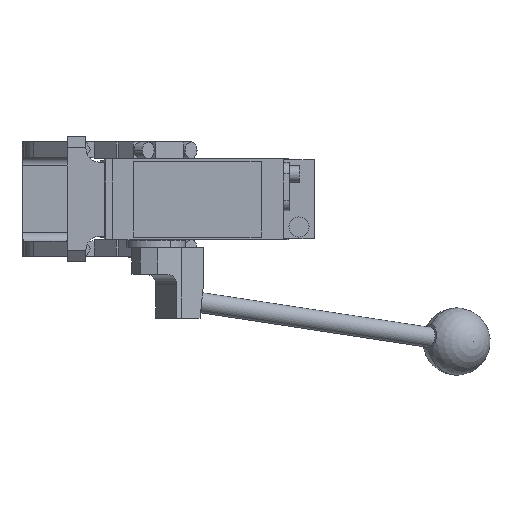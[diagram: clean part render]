
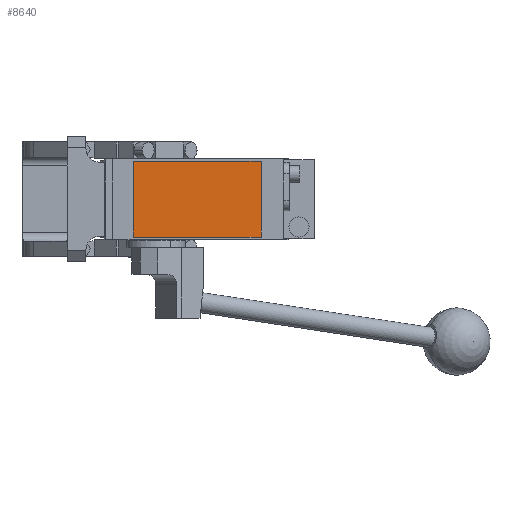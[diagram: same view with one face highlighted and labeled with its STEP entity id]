
A CAD part, front view. The second image highlights one B-rep face of the part: STEP entity #8640.
In plain terms, the highlighted planar face has unit normal (0, -1, 0).
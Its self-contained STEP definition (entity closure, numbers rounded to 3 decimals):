
#223 = ORIENTED_EDGE ( 'NONE', *, *, #15319, .T. ) ;
#1120 = ORIENTED_EDGE ( 'NONE', *, *, #7403, .T. ) ;
#1897 = CARTESIAN_POINT ( 'NONE',  ( -7., -280.5, -22.5 ) ) ;
#1927 = CARTESIAN_POINT ( 'NONE',  ( 69., -280.5, 22.5 ) ) ;
#2420 = CARTESIAN_POINT ( 'NONE',  ( -7., -280.5, -22.5 ) ) ;
#2612 = PLANE ( 'NONE',  #9283 ) ;
#2634 = VERTEX_POINT ( 'NONE', #13497 ) ;
#3841 = ORIENTED_EDGE ( 'NONE', *, *, #6168, .T. ) ;
#4167 = CARTESIAN_POINT ( 'NONE',  ( -7., -280.5, 22.5 ) ) ;
#4342 = DIRECTION ( 'NONE',  ( -1., 0., 0. ) ) ;
#4654 = EDGE_CURVE ( 'NONE', #15694, #2634, #11910, .T. ) ;
#4954 = VERTEX_POINT ( 'NONE', #15678 ) ;
#5554 = VECTOR ( 'NONE', #9242, 1000. ) ;
#5621 = ORIENTED_EDGE ( 'NONE', *, *, #4654, .T. ) ;
#6168 = EDGE_CURVE ( 'NONE', #2634, #4954, #8256, .T. ) ;
#6200 = CARTESIAN_POINT ( 'NONE',  ( 0., -280.5, 0. ) ) ;
#7403 = EDGE_CURVE ( 'NONE', #4954, #9719, #14259, .T. ) ;
#7482 = FACE_OUTER_BOUND ( 'NONE', #13034, .T. ) ;
#7894 = CARTESIAN_POINT ( 'NONE',  ( -7., -280.5, 22.5 ) ) ;
#8256 = LINE ( 'NONE', #1927, #5554 ) ;
#8640 = ADVANCED_FACE ( 'NONE', ( #7482 ), #2612, .T. ) ;
#9242 = DIRECTION ( 'NONE',  ( 0., 0., 1. ) ) ;
#9283 = AXIS2_PLACEMENT_3D ( 'NONE', #6200, #15200, #10167 ) ;
#9719 = VERTEX_POINT ( 'NONE', #4167 ) ;
#9862 = VECTOR ( 'NONE', #10665, 1000. ) ;
#10167 = DIRECTION ( 'NONE',  ( 0., 0., -1. ) ) ;
#10579 = DIRECTION ( 'NONE',  ( 0., 0., -1. ) ) ;
#10665 = DIRECTION ( 'NONE',  ( 1., 0., 0. ) ) ;
#10958 = VECTOR ( 'NONE', #10579, 1000. ) ;
#11910 = LINE ( 'NONE', #1897, #9862 ) ;
#13034 = EDGE_LOOP ( 'NONE', ( #223, #5621, #3841, #1120 ) ) ;
#13104 = LINE ( 'NONE', #14490, #10958 ) ;
#13497 = CARTESIAN_POINT ( 'NONE',  ( 69., -280.5, -22.5 ) ) ;
#13798 = VECTOR ( 'NONE', #4342, 1000. ) ;
#14259 = LINE ( 'NONE', #7894, #13798 ) ;
#14490 = CARTESIAN_POINT ( 'NONE',  ( -7., -280.5, 22.5 ) ) ;
#15200 = DIRECTION ( 'NONE',  ( 0., -1., 0. ) ) ;
#15319 = EDGE_CURVE ( 'NONE', #9719, #15694, #13104, .T. ) ;
#15678 = CARTESIAN_POINT ( 'NONE',  ( 69., -280.5, 22.5 ) ) ;
#15694 = VERTEX_POINT ( 'NONE', #2420 ) ;
